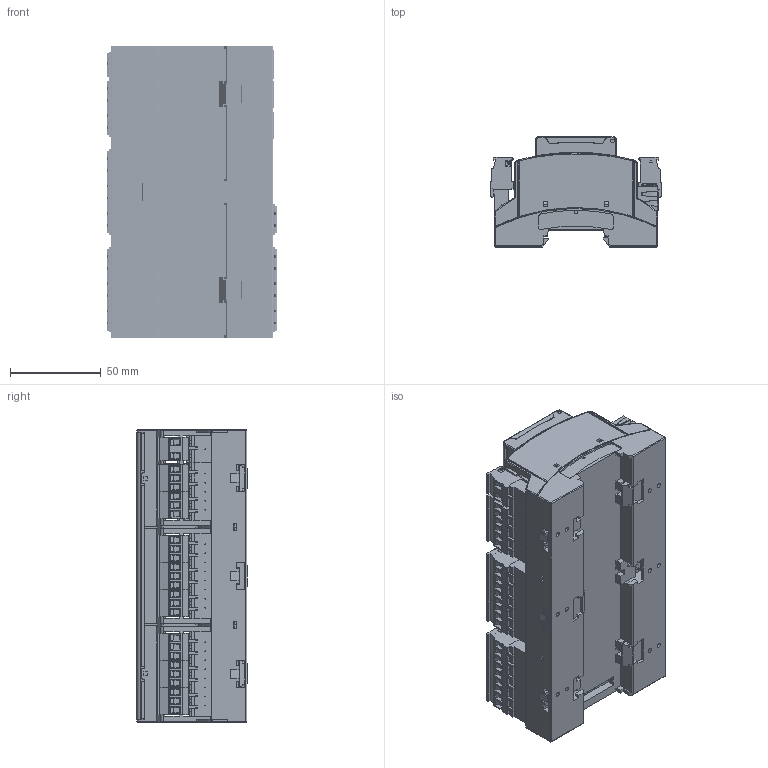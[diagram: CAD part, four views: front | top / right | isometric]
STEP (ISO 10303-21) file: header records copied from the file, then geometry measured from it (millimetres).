
FILE_DESCRIPTION(('STEP AP214'), '1');
FILE_NAME('栖闉罻', '', ('UNSPECIFIED'), ('UNSPECIFIED'), 'ASCON STEP Converter 1.3', 'ASCON Math Kernel', '');
FILE_SCHEMA(('AUTOMOTIVE_DESIGN { 1 0 10303 214 3 1 1}'));
Length unit declared in the file: millimetre
Products named in the file (17): 橾迕.424321.130.00; 橾迕.424321.130.00.00.00
Assembly tree (36 placements, depth 2):
  橾迕.424321.130.00
    橾迕.424321.130.00.00.00
    (unnamed)
    (unnamed)  x4
    (unnamed)
    (unnamed)
    (unnamed)
    (unnamed)
    (unnamed)
    (unnamed)
    (unnamed)  x2
    (unnamed)  x3
    (unnamed)  x12
    (unnamed)
    (unnamed)
    (unnamed)  x3
    (unnamed)  x2
Bounding box: 94.37 x 60.8 x 161.6 mm (x, y, z)
Volume: 190465.3 mm3; surface area: 225645.3 mm2
Topology: 36 solids, 36 shells, 8617 faces, 23111 edges, 15075 vertices
Faces by surface type: plane 7006, cylinder 1525, cone 44, torus 22, bspline 12, sphere 8
Full cylindrical faces by diameter (mm): 0.434 x8, 0.457 x13, 0.609 x2, 0.8 x7, 1 x36, 1.4 x88, 2 x4, 2.4 x19, 2.8 x65, 3.783 x44, 4 x44, 4.2 x3
Entity records: 191395 total; most frequent: CARTESIAN_POINT 33467, ORIENTED_EDGE 25592, DIRECTION 22921, EDGE_CURVE 12796, LINE 11061, VECTOR 11061, VERTEX_POINT 8443, AXIS2_PLACEMENT_3D 5930
